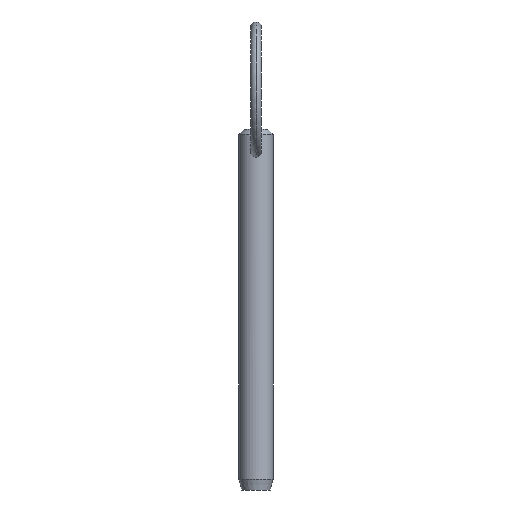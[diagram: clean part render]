
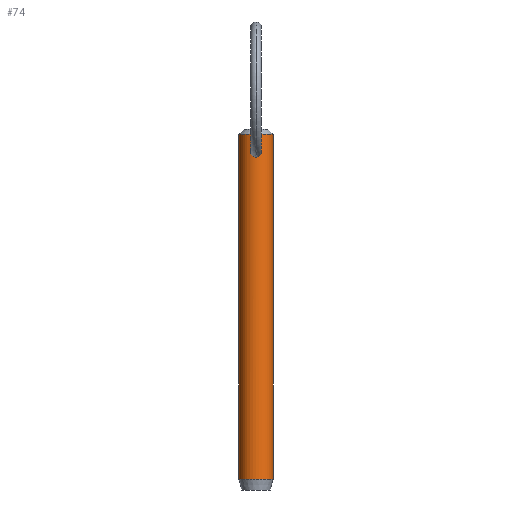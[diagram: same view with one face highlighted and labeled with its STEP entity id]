
A CAD part, front view. The second image highlights one B-rep face of the part: STEP entity #74.
In plain terms, the highlighted cylindrical face has radius 3.175 mm (diameter 6.35 mm), a partial arc.
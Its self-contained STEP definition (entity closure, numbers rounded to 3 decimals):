
#7 = CARTESIAN_POINT ( 'NONE',  ( -0.983, -3.02, 54.459 ) ) ;
#8 = CARTESIAN_POINT ( 'NONE',  ( 0., 0., 53.3 ) ) ;
#10 = CARTESIAN_POINT ( 'NONE',  ( -0.629, -3.114, 53.905 ) ) ;
#19 = CARTESIAN_POINT ( 'NONE',  ( -0.133, -3.173, 55.774 ) ) ;
#25 = EDGE_CURVE ( 'NONE', #241, #180, #371, .T. ) ;
#39 = CARTESIAN_POINT ( 'NONE',  ( 0.134, -3.175, 55.782 ) ) ;
#43 = AXIS2_PLACEMENT_3D ( 'NONE', #454, #273, #265 ) ;
#46 = CARTESIAN_POINT ( 'NONE',  ( -1.004, -3.012, 54.595 ) ) ;
#50 = CARTESIAN_POINT ( 'NONE',  ( 0., -3.175, 55.782 ) ) ;
#59 = CARTESIAN_POINT ( 'NONE',  ( 0., -3.175, 53.703 ) ) ;
#74 = ADVANCED_FACE ( 'NONE', ( #82, #303 ), #474, .T. ) ;
#77 = CARTESIAN_POINT ( 'NONE',  ( 0.815, -3.07, 54.095 ) ) ;
#80 = CARTESIAN_POINT ( 'NONE',  ( -0.508, -3.136, 55.635 ) ) ;
#82 = FACE_OUTER_BOUND ( 'NONE', #153, .T. ) ;
#90 = ORIENTED_EDGE ( 'NONE', *, *, #385, .T. ) ;
#95 = AXIS2_PLACEMENT_3D ( 'NONE', #288, #134, #248 ) ;
#107 = CARTESIAN_POINT ( 'NONE',  ( 0.884, -3.055, 55.257 ) ) ;
#108 = EDGE_CURVE ( 'NONE', #451, #391, #199, .T. ) ;
#110 = CARTESIAN_POINT ( 'NONE',  ( 0.982, -3.02, 54.458 ) ) ;
#111 = CARTESIAN_POINT ( 'NONE',  ( 0.515, -3.135, 53.83 ) ) ;
#126 = CARTESIAN_POINT ( 'NONE',  ( 3.175, 0., 53.3 ) ) ;
#134 = DIRECTION ( 'NONE',  ( 0., 0., 1. ) ) ;
#151 = CARTESIAN_POINT ( 'NONE',  ( 0.134, -3.175, 53.703 ) ) ;
#152 = VERTEX_POINT ( 'NONE', #470 ) ;
#153 = EDGE_LOOP ( 'NONE', ( #481, #262, #90, #443 ) ) ;
#159 = CARTESIAN_POINT ( 'NONE',  ( -0.882, -3.055, 55.26 ) ) ;
#165 = CARTESIAN_POINT ( 'NONE',  ( -0.269, -3.166, 53.729 ) ) ;
#168 = ORIENTED_EDGE ( 'NONE', *, *, #25, .T. ) ;
#177 = DIRECTION ( 'NONE',  ( 0., 0., -1. ) ) ;
#180 = VERTEX_POINT ( 'NONE', #59 ) ;
#185 = CARTESIAN_POINT ( 'NONE',  ( 0.269, -3.166, 55.75 ) ) ;
#192 = B_SPLINE_CURVE_WITH_KNOTS ( 'NONE', 3,
 ( #398, #208, #165, #235, #10, #269, #232, #7, #46, #465, #159, #237, #80, #272, #416, #19, #276, #50 ),
 .UNSPECIFIED., .F., .F.,
 ( 4, 2, 2, 2, 2, 2, 2, 2, 4 ),
 ( 0.006, 0.006, 0.007, 0.007, 0.008, 0.008, 0.009, 0.009, 0.009 ),
 .UNSPECIFIED. ) ;
#199 = CIRCLE ( 'NONE', #43, 3.175 ) ;
#200 = VERTEX_POINT ( 'NONE', #378 ) ;
#204 = EDGE_CURVE ( 'NONE', #451, #152, #290, .T. ) ;
#205 = LINE ( 'NONE', #254, #390 ) ;
#208 = CARTESIAN_POINT ( 'NONE',  ( -0.134, -3.175, 53.703 ) ) ;
#217 = CARTESIAN_POINT ( 'NONE',  ( 0.992, -3.016, 54.994 ) ) ;
#232 = CARTESIAN_POINT ( 'NONE',  ( -0.888, -3.049, 54.209 ) ) ;
#233 = DIRECTION ( 'NONE',  ( 0., 0., -1. ) ) ;
#235 = CARTESIAN_POINT ( 'NONE',  ( -0.516, -3.135, 53.831 ) ) ;
#237 = CARTESIAN_POINT ( 'NONE',  ( -0.615, -3.116, 55.553 ) ) ;
#241 = VERTEX_POINT ( 'NONE', #313 ) ;
#248 = DIRECTION ( 'NONE',  ( -1., 0., 0. ) ) ;
#254 = CARTESIAN_POINT ( 'NONE',  ( -3.175, 0., 53.3 ) ) ;
#262 = ORIENTED_EDGE ( 'NONE', *, *, #108, .T. ) ;
#265 = DIRECTION ( 'NONE',  ( 1., 0., 0. ) ) ;
#269 = CARTESIAN_POINT ( 'NONE',  ( -0.815, -3.07, 54.095 ) ) ;
#272 = CARTESIAN_POINT ( 'NONE',  ( -0.328, -3.159, 55.721 ) ) ;
#273 = DIRECTION ( 'NONE',  ( 0., 0., -1. ) ) ;
#275 = ORIENTED_EDGE ( 'NONE', *, *, #438, .T. ) ;
#276 = CARTESIAN_POINT ( 'NONE',  ( -0.067, -3.175, 55.782 ) ) ;
#285 = CIRCLE ( 'NONE', #95, 3.175 ) ;
#288 = CARTESIAN_POINT ( 'NONE',  ( 0., 0., -5.92 ) ) ;
#290 = LINE ( 'NONE', #126, #402 ) ;
#292 = CARTESIAN_POINT ( 'NONE',  ( 0.617, -3.116, 55.551 ) ) ;
#293 = CARTESIAN_POINT ( 'NONE',  ( 0.51, -3.136, 55.634 ) ) ;
#303 = FACE_BOUND ( 'NONE', #352, .T. ) ;
#313 = CARTESIAN_POINT ( 'NONE',  ( 0., -3.175, 55.782 ) ) ;
#327 = AXIS2_PLACEMENT_3D ( 'NONE', #8, #233, #417 ) ;
#328 = CARTESIAN_POINT ( 'NONE',  ( 1.004, -3.012, 54.593 ) ) ;
#330 = CARTESIAN_POINT ( 'NONE',  ( 0.628, -3.114, 53.904 ) ) ;
#334 = CARTESIAN_POINT ( 'NONE',  ( 0., -3.175, 53.703 ) ) ;
#348 = DIRECTION ( 'NONE',  ( 0., 0., -1. ) ) ;
#352 = EDGE_LOOP ( 'NONE', ( #168, #275 ) ) ;
#364 = CARTESIAN_POINT ( 'NONE',  ( 0.888, -3.049, 54.209 ) ) ;
#366 = CARTESIAN_POINT ( 'NONE',  ( 0.268, -3.166, 53.729 ) ) ;
#369 = EDGE_CURVE ( 'NONE', #200, #152, #285, .T. ) ;
#371 = B_SPLINE_CURVE_WITH_KNOTS ( 'NONE', 3,
 ( #448, #39, #185, #293, #292, #107, #217, #328, #110, #364, #77, #330, #111, #366, #151, #334 ),
 .UNSPECIFIED., .F., .F.,
 ( 4, 2, 2, 2, 2, 2, 2, 4 ),
 ( 0.003, 0.003, 0.004, 0.004, 0.005, 0.005, 0.006, 0.006 ),
 .UNSPECIFIED. ) ;
#378 = CARTESIAN_POINT ( 'NONE',  ( -3.175, 0., -5.92 ) ) ;
#385 = EDGE_CURVE ( 'NONE', #391, #200, #205, .T. ) ;
#390 = VECTOR ( 'NONE', #177, 1000. ) ;
#391 = VERTEX_POINT ( 'NONE', #394 ) ;
#394 = CARTESIAN_POINT ( 'NONE',  ( -3.175, 0., 57.88 ) ) ;
#398 = CARTESIAN_POINT ( 'NONE',  ( 0., -3.175, 53.703 ) ) ;
#402 = VECTOR ( 'NONE', #348, 1000. ) ;
#416 = CARTESIAN_POINT ( 'NONE',  ( -0.264, -3.165, 55.744 ) ) ;
#417 = DIRECTION ( 'NONE',  ( -1., 0., 0. ) ) ;
#438 = EDGE_CURVE ( 'NONE', #180, #241, #192, .T. ) ;
#443 = ORIENTED_EDGE ( 'NONE', *, *, #369, .T. ) ;
#448 = CARTESIAN_POINT ( 'NONE',  ( 0., -3.175, 55.782 ) ) ;
#451 = VERTEX_POINT ( 'NONE', #460 ) ;
#454 = CARTESIAN_POINT ( 'NONE',  ( 0., 0., 57.88 ) ) ;
#460 = CARTESIAN_POINT ( 'NONE',  ( 3.175, 0., 57.88 ) ) ;
#465 = CARTESIAN_POINT ( 'NONE',  ( -0.991, -3.016, 54.996 ) ) ;
#470 = CARTESIAN_POINT ( 'NONE',  ( 3.175, 0., -5.92 ) ) ;
#474 = CYLINDRICAL_SURFACE ( 'NONE', #327, 3.175 ) ;
#481 = ORIENTED_EDGE ( 'NONE', *, *, #204, .F. ) ;
